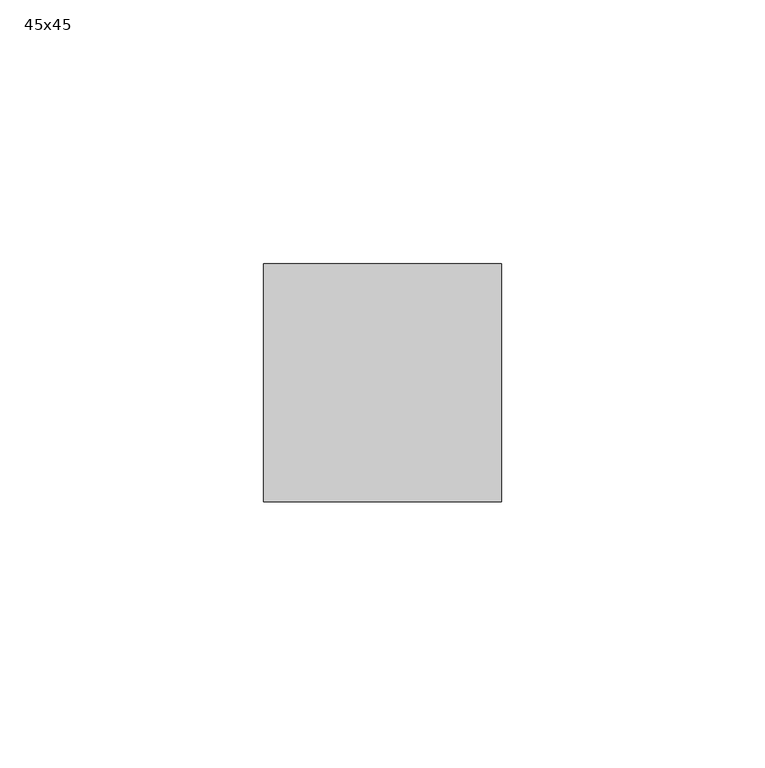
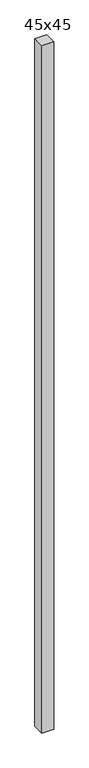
"""IFC4 building model written with IfcOpenShell, lengths in millimetres: column geometry, Bois - Bois de construction de dimensions courantes : 45x45."""

from ifc_helpers import new_model, si_unit, origin, origin_with_axes, place, context, project, spatial, polyline, outline, extrude, source, transform, mapped, element, save


def column_45x45_22a1cd90(model_context):
    return source(origin(), model_context, "Body", "SweptSolid", [
        extrude(outline(polyline([(22.5, 22.5), (22.5, -22.5), (-22.5, -22.5), (-22.5, 22.5), (22.5, 22.5)])), origin_with_axes(), (0.0, 0.0, 1.0), 2750.0),
    ])


if __name__ == "__main__":
    model = new_model("IFC4")
    model_context = context("Model", 3, world=origin())
    ifc_project = project(units=[si_unit("LENGTHUNIT", "METRE", prefix="MILLI")], contexts=[model_context])
    site = spatial("IfcSite", under=ifc_project)
    building = spatial("IfcBuilding", under=site)
    placement = place(None, origin())
    column_45x45_shape = column_45x45_22a1cd90(model_context)
    element("IfcColumn", 1, ObjectType="Bois - Bois de construction de dimensions courantes : 45x45", at=placement, inside=building, context=model_context, shape_type="MappedRepresentation", body=[
        mapped(column_45x45_shape, transform((0.0, 0.0, 0.0), x_axis=(1.0, 0.0, 0.0), y_axis=(0.0, 1.0, 0.0), z_axis=(0.0, 0.0, 1.0))),
    ])
    save(model, "model.ifc")
